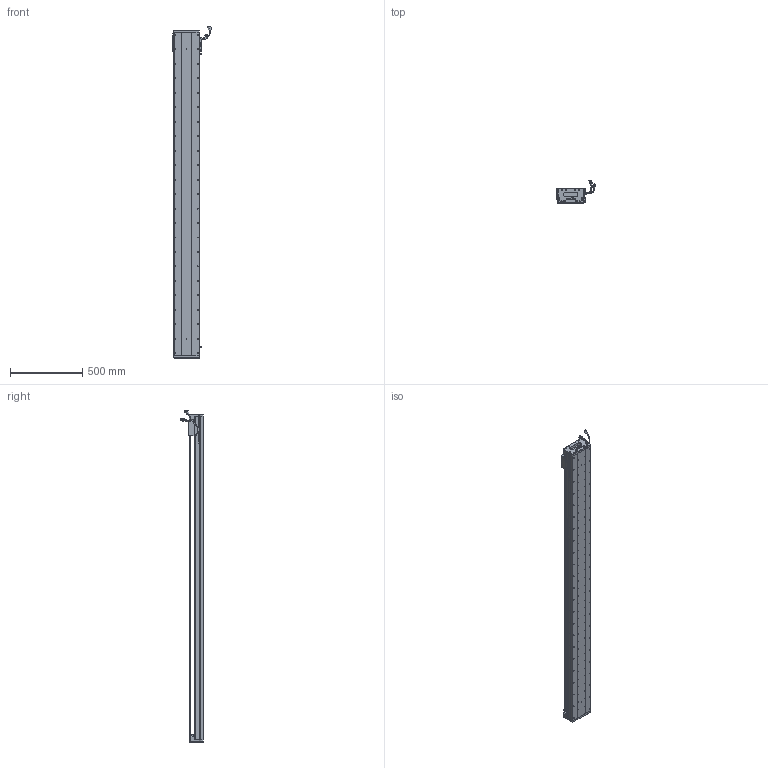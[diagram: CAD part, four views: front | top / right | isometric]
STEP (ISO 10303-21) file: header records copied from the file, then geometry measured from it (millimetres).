
FILE_DESCRIPTION (( 'STEP AP203' ), '1' );
FILE_NAME ('Z1-RY170D-1-L500-B-K.SLDASM_2050.step', '2021-05-17T08:54:33', ( '盈信电脑' ), ( '东莞市道滘镇水果街19号' ), 'SwSTEP 2.0', 'SolidWorks 2016', '' );
FILE_SCHEMA (( 'CONFIG_CONTROL_DESIGN' ));
Length unit declared in the file: millimetre
Products named in the file (36): SCREW-M1.7; SCREW-M1.6-1; SCREW-M1.6; SCALE-Part-1; 170-Z-臏賑輸盄裔(21遴); SHIELDPLATE; SCREW-M1.6-2; SCREW-M1.6-3; Z1-RY170D-1-L500-B-K.SLDASM_2050; RY170直线电机感应器672光电感应片; LABEL-Part-1; Z1-RY170臏賑輸(21遴); SCALE; LABEL; SCALE-Part-2; SEAL; HARNESS-Part-1; SCREW-M1.7-1; HOLDER0; Z-RY170詩湍狟揤裔; 080黍杅芛假蚾釱21遴; COVER; Z-RY170詩湍奻揤裔; PSLH080_PSLF2; Z-170詩湍傷裔啣; PBU_SHEET; 榋妏寠巭燃_暯_M2_2; HARNESS-Part-2; 140雄赽晤鎢ん堤盄; HARNESS; 140蚥薯蝶輸; 覜茼ん672; Z1-RY170-L500詩湍145mm遵_2050; COVER-Part-1; SEAL-Part-1; Z1-RY170-L500耀郪菁釱_2050
Assembly tree (41 placements, depth 4):
  Z1-RY170D-1-L500-B-K.SLDASM_2050
    Z1-RY170-L500耀郪菁釱_2050
    RY170直线电机感应器672光电感应片
    Z1-RY170臏賑輸(21遴)
    覜茼ん672  x3
    PSLH080_PSLF2
      SCALE
        SCALE-Part-1
        SCALE-Part-2
      HARNESS
        HARNESS-Part-1
        HARNESS-Part-2
      LABEL
        LABEL-Part-1
      COVER
        COVER-Part-1
      SEAL
        SEAL-Part-1
      榋妏寠巭燃_暯_M2_2
      SHIELDPLATE
      SCREW-M1.7
      SCREW-M1.7-1
      PBU_SHEET
      SCREW-M1.6
      SCREW-M1.6-1
      SCREW-M1.6-2
      SCREW-M1.6-3
      HOLDER0
    080黍杅芛假蚾釱21遴
    Z1-RY170-L500詩湍145mm遵_2050
    Z-170詩湍傷裔啣  x2
    Z-RY170詩湍奻揤裔  x2
    Z-RY170詩湍狟揤裔  x2
    140蚥薯蝶輸  x2
    170-Z-臏賑輸盄裔(21遴)
    140雄赽晤鎢ん堤盄
Bounding box: 275.34 x 158.11 x 2293.72 mm (x, y, z)
Volume: 11097820.2 mm3; surface area: 2775014.4 mm2
Topology: 36 solids, 36 shells, 3772 faces, 10443 edges, 6539 vertices
Faces by surface type: cylinder 1874, plane 1268, cone 508, torus 69, bspline 53
Entity records: 117975 total; most frequent: CARTESIAN_POINT 32960, ORIENTED_EDGE 17442, DIRECTION 16245, EDGE_CURVE 8721, AXIS2_PLACEMENT_3D 5958, VERTEX_POINT 5657, VECTOR 4329, LINE 4329
